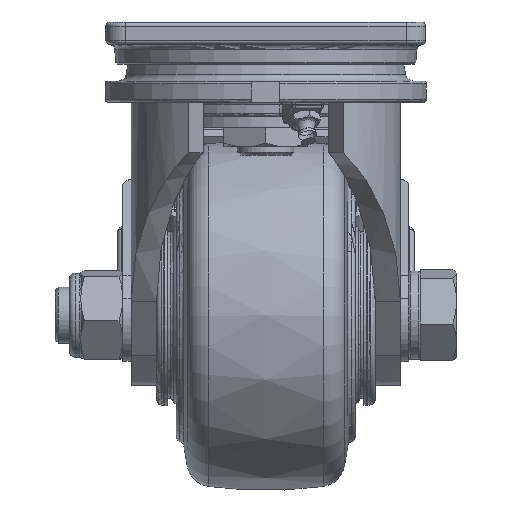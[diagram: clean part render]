
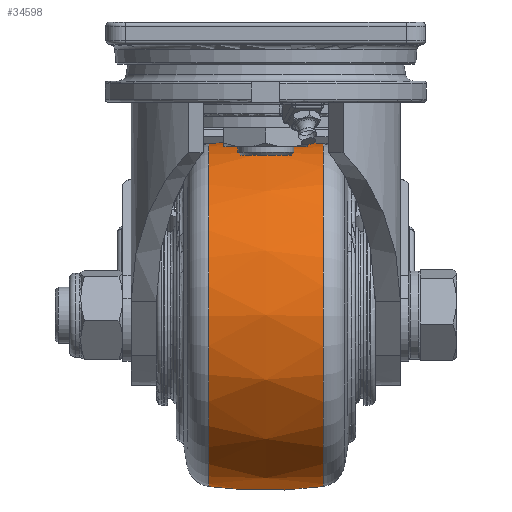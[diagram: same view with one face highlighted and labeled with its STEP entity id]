
A CAD part, left-side view. The second image highlights one B-rep face of the part: STEP entity #34598.
In plain terms, the highlighted free-form (B-spline) face has degree [2, 2] with [3, 9] control points.
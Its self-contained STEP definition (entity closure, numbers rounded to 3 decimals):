
#255=(
BOUNDED_SURFACE()
B_SPLINE_SURFACE(2,2,((#49805,#49806,#49807,#49808,#49809,#49810,#49811,
#49812,#49813),(#49814,#49815,#49816,#49817,#49818,#49819,#49820,#49821,
#49822),(#49823,#49824,#49825,#49826,#49827,#49828,#49829,#49830,#49831)),
 .UNSPECIFIED.,.F.,.T.,.F.)
B_SPLINE_SURFACE_WITH_KNOTS((3,3),(3,2,2,2,3),(-0.136,0.136),
(-3.142,-1.571,0.,1.571,3.142),
 .UNSPECIFIED.)
GEOMETRIC_REPRESENTATION_ITEM()
RATIONAL_B_SPLINE_SURFACE(((1.,0.707,1.,0.707,1.,
0.707,1.,0.707,1.),(0.991,0.701,
0.991,0.701,0.991,0.701,
0.991,0.701,0.991),(1.,0.707,
1.,0.707,1.,0.707,1.,0.707,1.)))
REPRESENTATION_ITEM('')
SURFACE()
);
#8551=FACE_OUTER_BOUND('',#10623,.T.);
#10623=EDGE_LOOP('',(#23760,#23761,#23762,#23763,#23764,#23765,#23766,#23767));
#12857=CIRCLE('',#36766,61.106);
#12858=CIRCLE('',#36767,61.106);
#12859=CIRCLE('',#36768,61.106);
#12860=CIRCLE('',#36769,150.);
#12861=CIRCLE('',#36770,61.106);
#12862=CIRCLE('',#36771,61.106);
#12863=CIRCLE('',#36772,61.106);
#14599=VERTEX_POINT('',#49798);
#14600=VERTEX_POINT('',#49800);
#14601=VERTEX_POINT('',#49802);
#14602=VERTEX_POINT('',#49832);
#14603=VERTEX_POINT('',#49834);
#14604=VERTEX_POINT('',#49836);
#18143=EDGE_CURVE('',#14599,#14600,#12857,.T.);
#18144=EDGE_CURVE('',#14600,#14601,#12858,.T.);
#18145=EDGE_CURVE('',#14601,#14599,#12859,.T.);
#18146=EDGE_CURVE('',#14600,#14602,#12860,.T.);
#18147=EDGE_CURVE('',#14602,#14603,#12861,.T.);
#18148=EDGE_CURVE('',#14603,#14604,#12862,.T.);
#18149=EDGE_CURVE('',#14604,#14602,#12863,.T.);
#23760=ORIENTED_EDGE('',*,*,#18145,.F.);
#23761=ORIENTED_EDGE('',*,*,#18144,.F.);
#23762=ORIENTED_EDGE('',*,*,#18146,.T.);
#23763=ORIENTED_EDGE('',*,*,#18147,.T.);
#23764=ORIENTED_EDGE('',*,*,#18148,.T.);
#23765=ORIENTED_EDGE('',*,*,#18149,.T.);
#23766=ORIENTED_EDGE('',*,*,#18146,.F.);
#23767=ORIENTED_EDGE('',*,*,#18143,.F.);
#34598=ADVANCED_FACE('',(#8551),#255,.F.);
#36766=AXIS2_PLACEMENT_3D('',#49801,#40314,#40315);
#36767=AXIS2_PLACEMENT_3D('',#49803,#40316,#40317);
#36768=AXIS2_PLACEMENT_3D('',#49804,#40318,#40319);
#36769=AXIS2_PLACEMENT_3D('',#49833,#40320,#40321);
#36770=AXIS2_PLACEMENT_3D('',#49835,#40322,#40323);
#36771=AXIS2_PLACEMENT_3D('',#49837,#40324,#40325);
#36772=AXIS2_PLACEMENT_3D('',#49838,#40326,#40327);
#40314=DIRECTION('center_axis',(0.,-1.,0.));
#40315=DIRECTION('ref_axis',(-0.869,0.,0.495));
#40316=DIRECTION('center_axis',(0.,-1.,0.));
#40317=DIRECTION('ref_axis',(-0.869,0.,0.495));
#40318=DIRECTION('center_axis',(0.,-1.,0.));
#40319=DIRECTION('ref_axis',(-0.869,0.,0.495));
#40320=DIRECTION('center_axis',(1.,0.,0.));
#40321=DIRECTION('ref_axis',(0.,0.,
-1.));
#40322=DIRECTION('center_axis',(0.,-1.,0.));
#40323=DIRECTION('ref_axis',(-0.869,0.,0.495));
#40324=DIRECTION('center_axis',(0.,-1.,0.));
#40325=DIRECTION('ref_axis',(-0.869,0.,0.495));
#40326=DIRECTION('center_axis',(0.,-1.,0.));
#40327=DIRECTION('ref_axis',(-0.869,0.,0.495));
#49798=CARTESIAN_POINT('',(13.976,-20.406,-127.61));
#49800=CARTESIAN_POINT('',(44.195,-20.406,-135.606));
#49801=CARTESIAN_POINT('Origin',(44.195,-20.406,-74.5));
#49802=CARTESIAN_POINT('',(-8.915,-20.406,-44.281));
#49803=CARTESIAN_POINT('Origin',(44.195,-20.406,-74.5));
#49804=CARTESIAN_POINT('Origin',(44.195,-20.406,-74.5));
#49805=CARTESIAN_POINT('Ctrl Pts',(44.195,-20.406,-135.606));
#49806=CARTESIAN_POINT('Ctrl Pts',(-16.91,-20.406,
-135.606));
#49807=CARTESIAN_POINT('Ctrl Pts',(-16.91,-20.406,
-74.5));
#49808=CARTESIAN_POINT('Ctrl Pts',(-16.91,-20.406,
-13.394));
#49809=CARTESIAN_POINT('Ctrl Pts',(44.195,-20.406,-13.394));
#49810=CARTESIAN_POINT('Ctrl Pts',(105.301,-20.406,-13.394));
#49811=CARTESIAN_POINT('Ctrl Pts',(105.301,-20.406,-74.5));
#49812=CARTESIAN_POINT('Ctrl Pts',(105.301,-20.406,-135.606));
#49813=CARTESIAN_POINT('Ctrl Pts',(44.195,-20.406,-135.606));
#49814=CARTESIAN_POINT('Ctrl Pts',(44.195,0.,
-138.408));
#49815=CARTESIAN_POINT('Ctrl Pts',(-19.712,0.,
-138.408));
#49816=CARTESIAN_POINT('Ctrl Pts',(-19.712,0.,
-74.5));
#49817=CARTESIAN_POINT('Ctrl Pts',(-19.712,0.,
-10.592));
#49818=CARTESIAN_POINT('Ctrl Pts',(44.195,0.,
-10.592));
#49819=CARTESIAN_POINT('Ctrl Pts',(108.103,0.,
-10.592));
#49820=CARTESIAN_POINT('Ctrl Pts',(108.103,0.,
-74.5));
#49821=CARTESIAN_POINT('Ctrl Pts',(108.103,0.,
-138.408));
#49822=CARTESIAN_POINT('Ctrl Pts',(44.195,0.,
-138.408));
#49823=CARTESIAN_POINT('Ctrl Pts',(44.195,20.406,-135.606));
#49824=CARTESIAN_POINT('Ctrl Pts',(-16.91,20.406,-135.606));
#49825=CARTESIAN_POINT('Ctrl Pts',(-16.91,20.406,-74.5));
#49826=CARTESIAN_POINT('Ctrl Pts',(-16.91,20.406,-13.394));
#49827=CARTESIAN_POINT('Ctrl Pts',(44.195,20.406,-13.394));
#49828=CARTESIAN_POINT('Ctrl Pts',(105.301,20.406,-13.394));
#49829=CARTESIAN_POINT('Ctrl Pts',(105.301,20.406,-74.5));
#49830=CARTESIAN_POINT('Ctrl Pts',(105.301,20.406,-135.606));
#49831=CARTESIAN_POINT('Ctrl Pts',(44.195,20.406,-135.606));
#49832=CARTESIAN_POINT('',(44.195,20.406,-135.606));
#49833=CARTESIAN_POINT('Origin',(44.195,0.,
13.));
#49834=CARTESIAN_POINT('',(-8.915,20.406,-44.281));
#49835=CARTESIAN_POINT('Origin',(44.195,20.406,-74.5));
#49836=CARTESIAN_POINT('',(13.976,20.406,-127.61));
#49837=CARTESIAN_POINT('Origin',(44.195,20.406,-74.5));
#49838=CARTESIAN_POINT('Origin',(44.195,20.406,-74.5));
